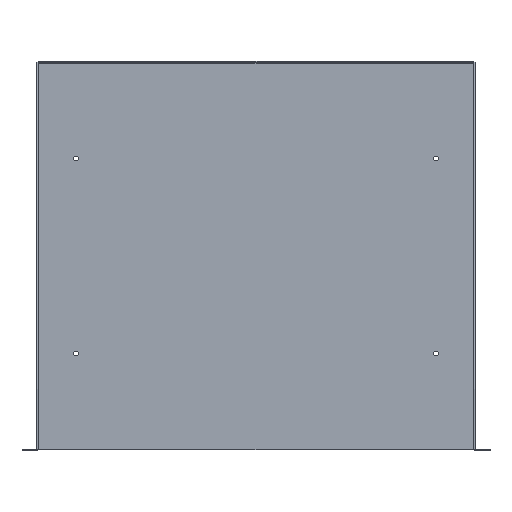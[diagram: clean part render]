
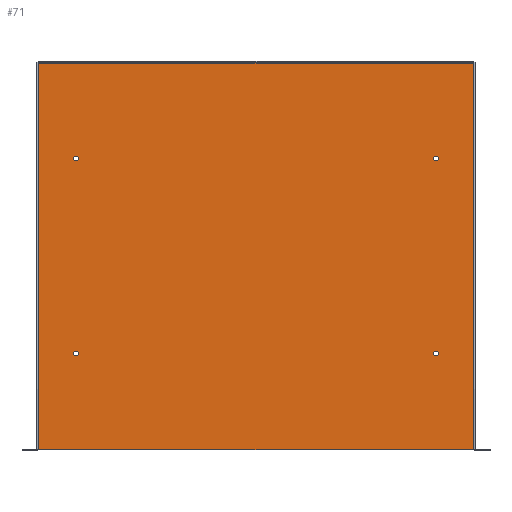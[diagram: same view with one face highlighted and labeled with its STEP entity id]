
A CAD part, top view. The second image highlights one B-rep face of the part: STEP entity #71.
In plain terms, the highlighted planar face has unit normal (0, 0, 1).
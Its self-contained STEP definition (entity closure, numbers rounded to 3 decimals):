
#71 = ADVANCED_FACE( '', ( #205, #206, #207, #208, #209 ), #210, .T. );
#205 = FACE_BOUND( '', #503, .T. );
#206 = FACE_BOUND( '', #504, .T. );
#207 = FACE_BOUND( '', #505, .T. );
#208 = FACE_BOUND( '', #506, .T. );
#209 = FACE_OUTER_BOUND( '', #507, .T. );
#210 = PLANE( '', #508 );
#503 = EDGE_LOOP( '', ( #958 ) );
#504 = EDGE_LOOP( '', ( #959 ) );
#505 = EDGE_LOOP( '', ( #960 ) );
#506 = EDGE_LOOP( '', ( #961 ) );
#507 = EDGE_LOOP( '', ( #962, #963, #964, #965 ) );
#508 = AXIS2_PLACEMENT_3D( '', #966, #967, #968 );
#958 = ORIENTED_EDGE( '', *, *, #1675, .F. );
#959 = ORIENTED_EDGE( '', *, *, #1676, .F. );
#960 = ORIENTED_EDGE( '', *, *, #1677, .F. );
#961 = ORIENTED_EDGE( '', *, *, #1678, .F. );
#962 = ORIENTED_EDGE( '', *, *, #1679, .F. );
#963 = ORIENTED_EDGE( '', *, *, #1640, .T. );
#964 = ORIENTED_EDGE( '', *, *, #1680, .F. );
#965 = ORIENTED_EDGE( '', *, *, #1681, .T. );
#966 = CARTESIAN_POINT( '', ( -285.75, -253.086, 1.829 ) );
#967 = DIRECTION( '', ( 0., 0., 1. ) );
#968 = DIRECTION( '', ( 1., 0., 0. ) );
#1640 = EDGE_CURVE( '', #1964, #1959, #1967, .T. );
#1675 = EDGE_CURVE( '', #2029, #2029, #2030, .T. );
#1676 = EDGE_CURVE( '', #2031, #2031, #2032, .T. );
#1677 = EDGE_CURVE( '', #2033, #2033, #2034, .T. );
#1678 = EDGE_CURVE( '', #2035, #2035, #2036, .T. );
#1679 = EDGE_CURVE( '', #1964, #2037, #2038, .T. );
#1680 = EDGE_CURVE( '', #2039, #1959, #2040, .T. );
#1681 = EDGE_CURVE( '', #2039, #2037, #2041, .T. );
#1959 = VERTEX_POINT( '', #2481 );
#1964 = VERTEX_POINT( '', #2487 );
#1967 = LINE( '', #2503, #2504 );
#2029 = VERTEX_POINT( '', #2622 );
#2030 = CIRCLE( '', #2623, 3.175 );
#2031 = VERTEX_POINT( '', #2624 );
#2032 = CIRCLE( '', #2625, 3.175 );
#2033 = VERTEX_POINT( '', #2626 );
#2034 = CIRCLE( '', #2627, 3.175 );
#2035 = VERTEX_POINT( '', #2628 );
#2036 = CIRCLE( '', #2629, 3.175 );
#2037 = VERTEX_POINT( '', #2630 );
#2038 = LINE( '', #2631, #2632 );
#2039 = VERTEX_POINT( '', #2633 );
#2040 = LINE( '', #2634, #2635 );
#2041 = LINE( '', #2636, #2637 );
#2481 = CARTESIAN_POINT( '', ( -283.007, 250.342, 1.829 ) );
#2487 = CARTESIAN_POINT( '', ( 283.007, 250.342, 1.829 ) );
#2503 = CARTESIAN_POINT( '', ( -283.005, 250.342, 1.829 ) );
#2504 = VECTOR( '', #3172, 1000. );
#2622 = CARTESIAN_POINT( '', ( -231.369, 126.086, 1.829 ) );
#2623 = AXIS2_PLACEMENT_3D( '', #3211, #3212, #3213 );
#2624 = CARTESIAN_POINT( '', ( 237.719, -127.914, 1.829 ) );
#2625 = AXIS2_PLACEMENT_3D( '', #3214, #3215, #3216 );
#2626 = CARTESIAN_POINT( '', ( 237.719, 126.086, 1.829 ) );
#2627 = AXIS2_PLACEMENT_3D( '', #3217, #3218, #3219 );
#2628 = CARTESIAN_POINT( '', ( -231.369, -127.914, 1.829 ) );
#2629 = AXIS2_PLACEMENT_3D( '', #3220, #3221, #3222 );
#2630 = CARTESIAN_POINT( '', ( 283.007, -253.086, 1.829 ) );
#2631 = CARTESIAN_POINT( '', ( 283.007, 253.086, 1.829 ) );
#2632 = VECTOR( '', #3223, 1000. );
#2633 = CARTESIAN_POINT( '', ( -283.007, -253.086, 1.829 ) );
#2634 = CARTESIAN_POINT( '', ( -283.007, -253.086, 1.829 ) );
#2635 = VECTOR( '', #3224, 1000. );
#2636 = CARTESIAN_POINT( '', ( -285.75, -253.086, 1.829 ) );
#2637 = VECTOR( '', #3225, 1000. );
#3172 = DIRECTION( '', ( -1., 0., 0. ) );
#3211 = CARTESIAN_POINT( '', ( -234.544, 126.086, 1.829 ) );
#3212 = DIRECTION( '', ( 0., 0., 1. ) );
#3213 = DIRECTION( '', ( 1., 0., 0. ) );
#3214 = CARTESIAN_POINT( '', ( 234.544, -127.914, 1.829 ) );
#3215 = DIRECTION( '', ( 0., 0., 1. ) );
#3216 = DIRECTION( '', ( 1., 0., 0. ) );
#3217 = CARTESIAN_POINT( '', ( 234.544, 126.086, 1.829 ) );
#3218 = DIRECTION( '', ( 0., 0., 1. ) );
#3219 = DIRECTION( '', ( 1., 0., 0. ) );
#3220 = CARTESIAN_POINT( '', ( -234.544, -127.914, 1.829 ) );
#3221 = DIRECTION( '', ( 0., 0., 1. ) );
#3222 = DIRECTION( '', ( 1., 0., 0. ) );
#3223 = DIRECTION( '', ( 0., -1., 0. ) );
#3224 = DIRECTION( '', ( 0., 1., 0. ) );
#3225 = DIRECTION( '', ( 1., 0., 0. ) );
